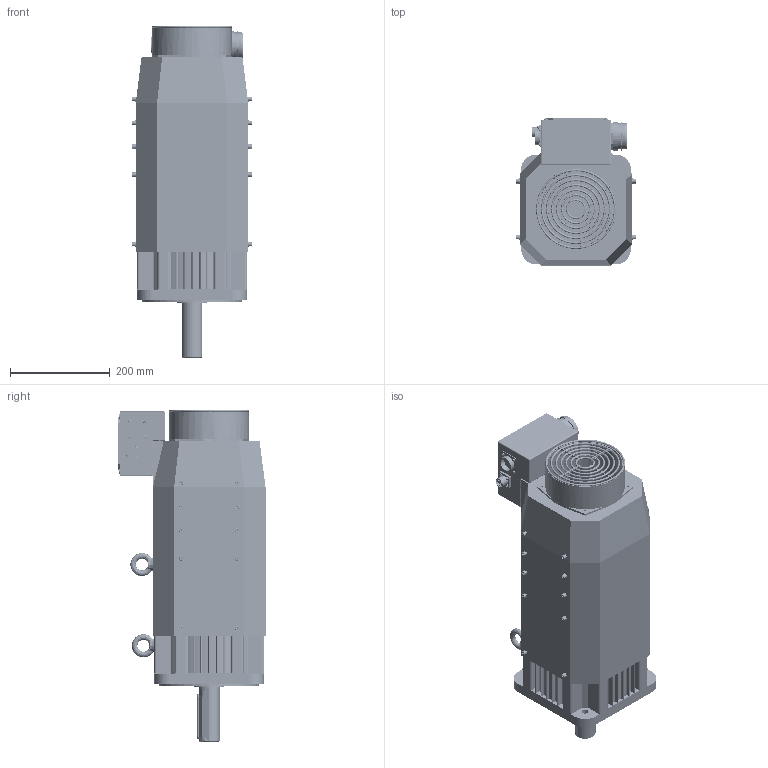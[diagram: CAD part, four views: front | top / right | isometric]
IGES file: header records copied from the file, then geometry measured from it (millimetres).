
Start section: SolidWorks IGES file using analytic representation for surfaces
Bounding box: 240.6 x 295 x 666 mm (x, y, z)
Surface area: 1712849.3 mm2 (no closed solid volume)
Topology: 0 solids, 0 shells, 2570 faces, 36982 edges, 36846 vertices
Faces by surface type: bspline 1366, revolution 1204
